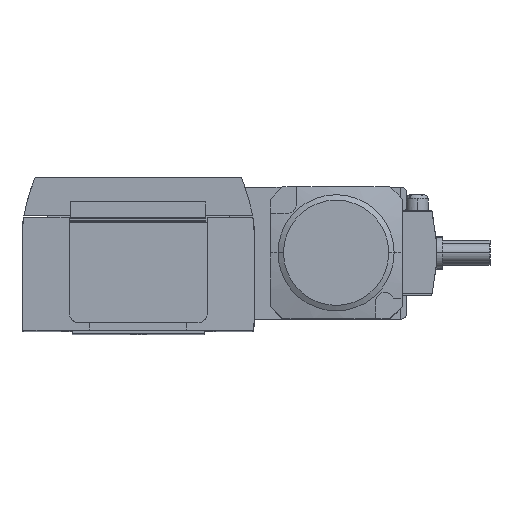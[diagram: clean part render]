
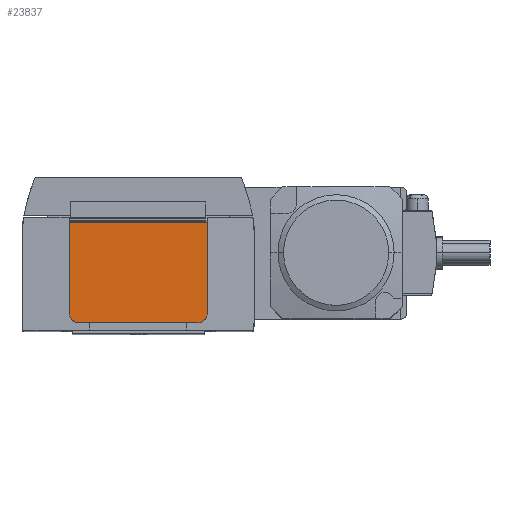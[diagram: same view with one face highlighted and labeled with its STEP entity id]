
A CAD part, top view. The second image highlights one B-rep face of the part: STEP entity #23837.
In plain terms, the highlighted planar face has unit normal (0, 0, 1).
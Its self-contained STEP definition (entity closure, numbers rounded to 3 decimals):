
#427 = CARTESIAN_POINT ( 'NONE',  ( -22., 11., 268.7 ) ) ;
#1181 = VERTEX_POINT ( 'NONE', #16737 ) ;
#1780 = DIRECTION ( 'NONE',  ( 1., 0., 0. ) ) ;
#2062 = DIRECTION ( 'NONE',  ( 0., 0., 1. ) ) ;
#2874 = EDGE_CURVE ( 'NONE', #13366, #1181, #8749, .T. ) ;
#3356 = ORIENTED_EDGE ( 'NONE', *, *, #7201, .T. ) ;
#3823 = LINE ( 'NONE', #26123, #11792 ) ;
#4452 = CARTESIAN_POINT ( 'NONE',  ( 22., 9.4, 268.7 ) ) ;
#5065 = ORIENTED_EDGE ( 'NONE', *, *, #5724, .T. ) ;
#5607 = VERTEX_POINT ( 'NONE', #22585 ) ;
#5614 = LINE ( 'NONE', #11322, #7565 ) ;
#5724 = EDGE_CURVE ( 'NONE', #5607, #20617, #21368, .T. ) ;
#5858 = FACE_OUTER_BOUND ( 'NONE', #25409, .T. ) ;
#6110 = PLANE ( 'NONE',  #14601 ) ;
#6560 = EDGE_CURVE ( 'NONE', #13366, #26186, #3823, .T. ) ;
#7201 = EDGE_CURVE ( 'NONE', #1181, #7277, #17589, .T. ) ;
#7277 = VERTEX_POINT ( 'NONE', #26530 ) ;
#7409 = ORIENTED_EDGE ( 'NONE', *, *, #23404, .T. ) ;
#7565 = VECTOR ( 'NONE', #15437, 1000. ) ;
#8749 = LINE ( 'NONE', #427, #21759 ) ;
#8771 = CARTESIAN_POINT ( 'NONE',  ( 19., -19.6, 268.7 ) ) ;
#9154 = LINE ( 'NONE', #23284, #22216 ) ;
#9782 = DIRECTION ( 'NONE',  ( 1., 0., 0. ) ) ;
#10824 = DIRECTION ( 'NONE',  ( 1., 0., 0. ) ) ;
#11322 = CARTESIAN_POINT ( 'NONE',  ( 22., 11., 268.7 ) ) ;
#11792 = VECTOR ( 'NONE', #9782, 1000. ) ;
#11815 = ORIENTED_EDGE ( 'NONE', *, *, #6560, .F. ) ;
#12648 = EDGE_CURVE ( 'NONE', #20617, #26186, #5614, .T. ) ;
#13366 = VERTEX_POINT ( 'NONE', #23794 ) ;
#13383 = AXIS2_PLACEMENT_3D ( 'NONE', #26360, #14089, #1780 ) ;
#14089 = DIRECTION ( 'NONE',  ( 0., 0., 1. ) ) ;
#14359 = CARTESIAN_POINT ( 'NONE',  ( -22., -22.6, 268.7 ) ) ;
#14601 = AXIS2_PLACEMENT_3D ( 'NONE', #14359, #2062, #16378 ) ;
#15437 = DIRECTION ( 'NONE',  ( 0., 1., 0. ) ) ;
#16088 = CARTESIAN_POINT ( 'NONE',  ( 22., -19.6, 268.7 ) ) ;
#16378 = DIRECTION ( 'NONE',  ( 1., 0., 0. ) ) ;
#16737 = CARTESIAN_POINT ( 'NONE',  ( -22., -19.6, 268.7 ) ) ;
#16959 = ORIENTED_EDGE ( 'NONE', *, *, #12648, .T. ) ;
#17067 = DIRECTION ( 'NONE',  ( 1., 0., 0. ) ) ;
#17589 = CIRCLE ( 'NONE', #13383, 3. ) ;
#19164 = AXIS2_PLACEMENT_3D ( 'NONE', #8771, #23125, #10824 ) ;
#20617 = VERTEX_POINT ( 'NONE', #16088 ) ;
#21368 = CIRCLE ( 'NONE', #19164, 3. ) ;
#21759 = VECTOR ( 'NONE', #25197, 1000. ) ;
#22216 = VECTOR ( 'NONE', #17067, 1000. ) ;
#22585 = CARTESIAN_POINT ( 'NONE',  ( 19., -22.6, 268.7 ) ) ;
#23125 = DIRECTION ( 'NONE',  ( 0., 0., 1. ) ) ;
#23284 = CARTESIAN_POINT ( 'NONE',  ( -22., -22.6, 268.7 ) ) ;
#23404 = EDGE_CURVE ( 'NONE', #7277, #5607, #9154, .T. ) ;
#23794 = CARTESIAN_POINT ( 'NONE',  ( -22., 9.4, 268.7 ) ) ;
#23837 = ADVANCED_FACE ( 'NONE', ( #5858 ), #6110, .T. ) ;
#24919 = ORIENTED_EDGE ( 'NONE', *, *, #2874, .T. ) ;
#25197 = DIRECTION ( 'NONE',  ( 0., -1., 0. ) ) ;
#25409 = EDGE_LOOP ( 'NONE', ( #7409, #5065, #16959, #11815, #24919, #3356 ) ) ;
#26123 = CARTESIAN_POINT ( 'NONE',  ( 22., 9.4, 268.7 ) ) ;
#26186 = VERTEX_POINT ( 'NONE', #4452 ) ;
#26360 = CARTESIAN_POINT ( 'NONE',  ( -19., -19.6, 268.7 ) ) ;
#26530 = CARTESIAN_POINT ( 'NONE',  ( -19., -22.6, 268.7 ) ) ;
